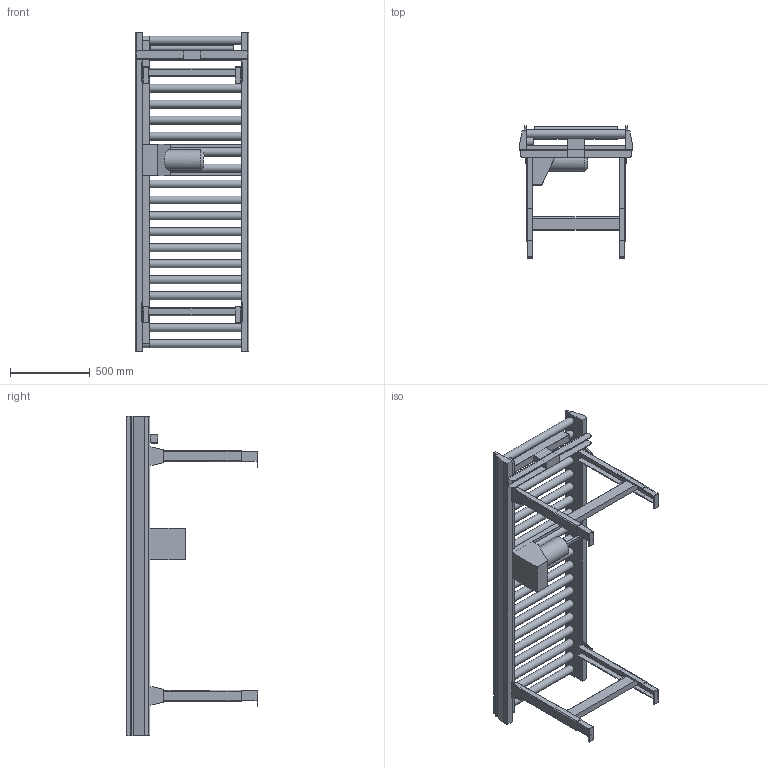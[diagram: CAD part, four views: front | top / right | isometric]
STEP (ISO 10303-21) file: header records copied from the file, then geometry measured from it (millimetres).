
FILE_DESCRIPTION((''),'2;1');
FILE_NAME('C:\Vault_Working_Folder\Designs\Inventor\Lättviktsmodeller\Klart\Midi\IRFS 50-100-620-2000.stp','2012-11-13T11:25:24',('martin.samuelsson'),(''),'Autodesk Inventor 2013','Autodesk Inventor 2013','');
FILE_SCHEMA(('AUTOMOTIVE_DESIGN { 1 0 10303 214 1 1 1 1 }'));
Length unit declared in the file: millimetre
Products named in the file (1): IRFS 50-100-620-2000
Bounding box: 710 x 825 x 2000 mm (x, y, z)
Volume: 60740915.4 mm3; surface area: 5746463.4 mm2
Topology: 7 solids, 8 shells, 302 faces, 839 edges, 516 vertices
Faces by surface type: plane 239, cylinder 62, cone 1
Full cylindrical faces by diameter (mm): 30 x1, 50 x20, 130 x1
Entity records: 9627 total; most frequent: CARTESIAN_POINT 1674, ORIENTED_EDGE 1632, DIRECTION 1581, EDGE_CURVE 816, VECTOR 641, LINE 641, VERTEX_POINT 515, AXIS2_PLACEMENT_3D 470
